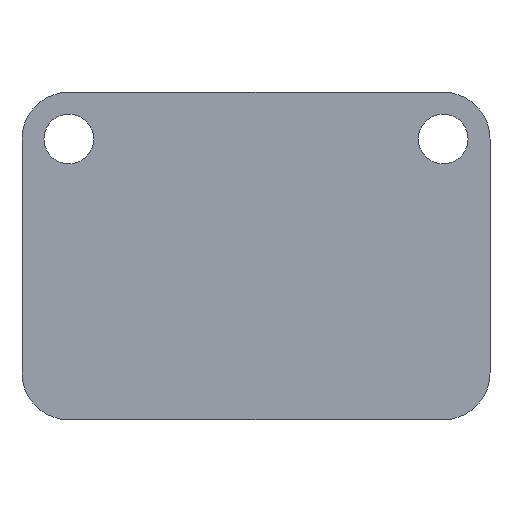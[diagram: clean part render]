
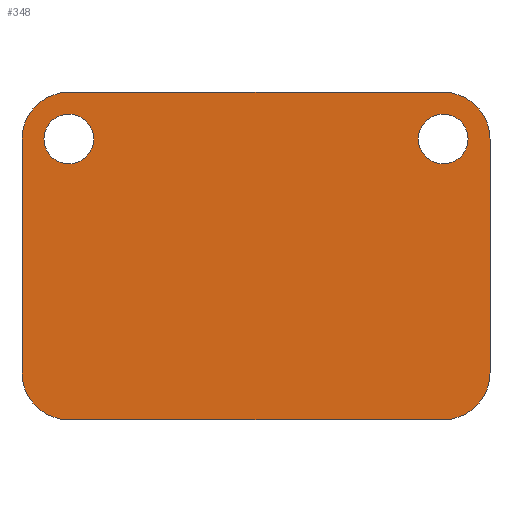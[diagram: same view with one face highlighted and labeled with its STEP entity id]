
A CAD part, front view. The second image highlights one B-rep face of the part: STEP entity #348.
In plain terms, the highlighted planar face has unit normal (0, -1, 0).
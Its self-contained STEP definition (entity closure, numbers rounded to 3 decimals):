
#1 = VERTEX_POINT ( 'NONE', #15 ) ;
#8 = DIRECTION ( 'NONE',  ( -1., 0., 0. ) ) ;
#10 = EDGE_CURVE ( 'NONE', #255, #374, #155, .T. ) ;
#11 = CARTESIAN_POINT ( 'NONE',  ( 10.16, 0., -8.89 ) ) ;
#13 = ORIENTED_EDGE ( 'NONE', *, *, #441, .F. ) ;
#15 = CARTESIAN_POINT ( 'NONE',  ( 12.7, 0., -6.35 ) ) ;
#25 = DIRECTION ( 'NONE',  ( 0., 0., 1. ) ) ;
#26 = DIRECTION ( 'NONE',  ( 0., 0., 1. ) ) ;
#28 = VERTEX_POINT ( 'NONE', #200 ) ;
#30 = AXIS2_PLACEMENT_3D ( 'NONE', #228, #458, #125 ) ;
#31 = AXIS2_PLACEMENT_3D ( 'NONE', #541, #442, #261 ) ;
#50 = EDGE_LOOP ( 'NONE', ( #488, #77 ) ) ;
#51 = CIRCLE ( 'NONE', #295, 1.35 ) ;
#58 = EDGE_CURVE ( 'NONE', #116, #1, #589, .T. ) ;
#66 = CARTESIAN_POINT ( 'NONE',  ( -10.16, 0., 6.35 ) ) ;
#69 = ORIENTED_EDGE ( 'NONE', *, *, #553, .F. ) ;
#75 = DIRECTION ( 'NONE',  ( 0., 0., 1. ) ) ;
#76 = CARTESIAN_POINT ( 'NONE',  ( 12.7, 0., 6.35 ) ) ;
#77 = ORIENTED_EDGE ( 'NONE', *, *, #10, .T. ) ;
#83 = CIRCLE ( 'NONE', #30, 2.54 ) ;
#85 = CARTESIAN_POINT ( 'NONE',  ( 10.16, 0., 5. ) ) ;
#92 = FACE_BOUND ( 'NONE', #368, .T. ) ;
#93 = AXIS2_PLACEMENT_3D ( 'NONE', #585, #156, #25 ) ;
#105 = ORIENTED_EDGE ( 'NONE', *, *, #402, .F. ) ;
#106 = LINE ( 'NONE', #542, #131 ) ;
#107 = DIRECTION ( 'NONE',  ( 0., 0., -1. ) ) ;
#111 = CARTESIAN_POINT ( 'NONE',  ( 10.16, 0., 8.89 ) ) ;
#116 = VERTEX_POINT ( 'NONE', #76 ) ;
#118 = DIRECTION ( 'NONE',  ( 0., 1., 0. ) ) ;
#120 = VECTOR ( 'NONE', #305, 1000. ) ;
#125 = DIRECTION ( 'NONE',  ( 0., 0., 1. ) ) ;
#131 = VECTOR ( 'NONE', #403, 1000. ) ;
#135 = CARTESIAN_POINT ( 'NONE',  ( 10.16, 0., -8.89 ) ) ;
#144 = FACE_OUTER_BOUND ( 'NONE', #590, .T. ) ;
#155 = CIRCLE ( 'NONE', #31, 1.35 ) ;
#156 = DIRECTION ( 'NONE',  ( 0., 1., 0. ) ) ;
#164 = CARTESIAN_POINT ( 'NONE',  ( 10.16, 0., 8.89 ) ) ;
#172 = ORIENTED_EDGE ( 'NONE', *, *, #493, .F. ) ;
#183 = ORIENTED_EDGE ( 'NONE', *, *, #58, .F. ) ;
#184 = EDGE_CURVE ( 'NONE', #28, #522, #518, .T. ) ;
#187 = VECTOR ( 'NONE', #8, 1000. ) ;
#188 = VECTOR ( 'NONE', #107, 1000. ) ;
#193 = CARTESIAN_POINT ( 'NONE',  ( -10.16, 0., 6.35 ) ) ;
#200 = CARTESIAN_POINT ( 'NONE',  ( -10.16, 0., 5. ) ) ;
#206 = DIRECTION ( 'NONE',  ( 0., 1., 0. ) ) ;
#209 = CARTESIAN_POINT ( 'NONE',  ( -10.16, 0., 7.7 ) ) ;
#212 = LINE ( 'NONE', #164, #120 ) ;
#217 = VERTEX_POINT ( 'NONE', #269 ) ;
#219 = CARTESIAN_POINT ( 'NONE',  ( -10.16, 0., 6.35 ) ) ;
#225 = ORIENTED_EDGE ( 'NONE', *, *, #598, .F. ) ;
#228 = CARTESIAN_POINT ( 'NONE',  ( 10.16, 0., 6.35 ) ) ;
#230 = VERTEX_POINT ( 'NONE', #609 ) ;
#233 = CARTESIAN_POINT ( 'NONE',  ( -12.7, 0., 6.35 ) ) ;
#243 = PLANE ( 'NONE',  #474 ) ;
#245 = CIRCLE ( 'NONE', #575, 2.54 ) ;
#249 = VERTEX_POINT ( 'NONE', #135 ) ;
#255 = VERTEX_POINT ( 'NONE', #85 ) ;
#258 = VERTEX_POINT ( 'NONE', #233 ) ;
#261 = DIRECTION ( 'NONE',  ( 0., 0., 1. ) ) ;
#269 = CARTESIAN_POINT ( 'NONE',  ( -10.16, 0., 8.89 ) ) ;
#286 = AXIS2_PLACEMENT_3D ( 'NONE', #219, #118, #26 ) ;
#295 = AXIS2_PLACEMENT_3D ( 'NONE', #66, #206, #397 ) ;
#297 = DIRECTION ( 'NONE',  ( 0., 1., 0. ) ) ;
#305 = DIRECTION ( 'NONE',  ( 1., 0., 0. ) ) ;
#334 = AXIS2_PLACEMENT_3D ( 'NONE', #193, #573, #621 ) ;
#343 = LINE ( 'NONE', #11, #187 ) ;
#348 = ADVANCED_FACE ( 'NONE', ( #92, #377, #144 ), #243, .F. ) ;
#350 = CARTESIAN_POINT ( 'NONE',  ( 12.7, 0., 6.35 ) ) ;
#368 = EDGE_LOOP ( 'NONE', ( #394, #592 ) ) ;
#374 = VERTEX_POINT ( 'NONE', #471 ) ;
#377 = FACE_BOUND ( 'NONE', #50, .T. ) ;
#382 = CIRCLE ( 'NONE', #604, 2.54 ) ;
#386 = CARTESIAN_POINT ( 'NONE',  ( 10.16, 0., -6.35 ) ) ;
#389 = VERTEX_POINT ( 'NONE', #476 ) ;
#392 = CIRCLE ( 'NONE', #93, 1.35 ) ;
#394 = ORIENTED_EDGE ( 'NONE', *, *, #529, .T. ) ;
#397 = DIRECTION ( 'NONE',  ( 0., 0., 1. ) ) ;
#402 = EDGE_CURVE ( 'NONE', #258, #217, #566, .T. ) ;
#403 = DIRECTION ( 'NONE',  ( 0., 0., 1. ) ) ;
#413 = DIRECTION ( 'NONE',  ( 0., 1., 0. ) ) ;
#438 = DIRECTION ( 'NONE',  ( 0., 0., 1. ) ) ;
#441 = EDGE_CURVE ( 'NONE', #389, #258, #106, .T. ) ;
#442 = DIRECTION ( 'NONE',  ( 0., 1., 0. ) ) ;
#448 = EDGE_CURVE ( 'NONE', #249, #230, #343, .T. ) ;
#458 = DIRECTION ( 'NONE',  ( 0., 1., 0. ) ) ;
#465 = VERTEX_POINT ( 'NONE', #111 ) ;
#471 = CARTESIAN_POINT ( 'NONE',  ( 10.16, 0., 7.7 ) ) ;
#474 = AXIS2_PLACEMENT_3D ( 'NONE', #386, #579, #571 ) ;
#476 = CARTESIAN_POINT ( 'NONE',  ( -12.7, 0., -6.35 ) ) ;
#488 = ORIENTED_EDGE ( 'NONE', *, *, #587, .T. ) ;
#493 = EDGE_CURVE ( 'NONE', #217, #465, #212, .T. ) ;
#507 = CARTESIAN_POINT ( 'NONE',  ( -10.16, 0., -6.35 ) ) ;
#518 = CIRCLE ( 'NONE', #286, 1.35 ) ;
#519 = ORIENTED_EDGE ( 'NONE', *, *, #624, .F. ) ;
#522 = VERTEX_POINT ( 'NONE', #209 ) ;
#529 = EDGE_CURVE ( 'NONE', #522, #28, #51, .T. ) ;
#541 = CARTESIAN_POINT ( 'NONE',  ( 10.16, 0., 6.35 ) ) ;
#542 = CARTESIAN_POINT ( 'NONE',  ( -12.7, 0., 6.35 ) ) ;
#545 = CARTESIAN_POINT ( 'NONE',  ( 10.16, 0., -6.35 ) ) ;
#553 = EDGE_CURVE ( 'NONE', #1, #249, #245, .T. ) ;
#566 = CIRCLE ( 'NONE', #334, 2.54 ) ;
#571 = DIRECTION ( 'NONE',  ( 0., 0., 1. ) ) ;
#573 = DIRECTION ( 'NONE',  ( 0., 1., 0. ) ) ;
#575 = AXIS2_PLACEMENT_3D ( 'NONE', #545, #297, #438 ) ;
#578 = ORIENTED_EDGE ( 'NONE', *, *, #448, .F. ) ;
#579 = DIRECTION ( 'NONE',  ( 0., 1., 0. ) ) ;
#585 = CARTESIAN_POINT ( 'NONE',  ( 10.16, 0., 6.35 ) ) ;
#587 = EDGE_CURVE ( 'NONE', #374, #255, #392, .T. ) ;
#589 = LINE ( 'NONE', #350, #188 ) ;
#590 = EDGE_LOOP ( 'NONE', ( #69, #183, #519, #172, #105, #13, #225, #578 ) ) ;
#592 = ORIENTED_EDGE ( 'NONE', *, *, #184, .T. ) ;
#598 = EDGE_CURVE ( 'NONE', #230, #389, #382, .T. ) ;
#604 = AXIS2_PLACEMENT_3D ( 'NONE', #507, #413, #75 ) ;
#609 = CARTESIAN_POINT ( 'NONE',  ( -10.16, 0., -8.89 ) ) ;
#621 = DIRECTION ( 'NONE',  ( 0., 0., -1. ) ) ;
#624 = EDGE_CURVE ( 'NONE', #465, #116, #83, .T. ) ;
